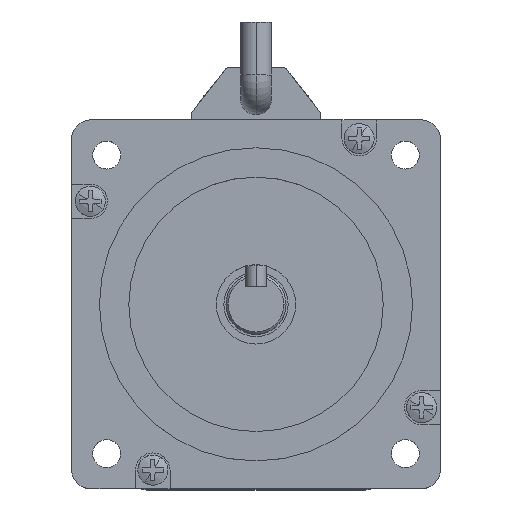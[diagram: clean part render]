
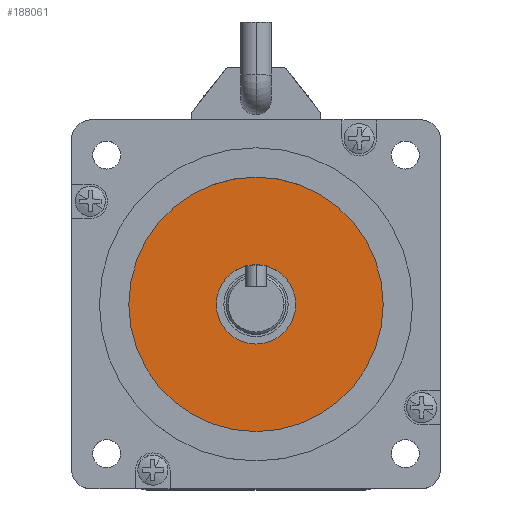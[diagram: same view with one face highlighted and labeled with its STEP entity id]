
A CAD part, top view. The second image highlights one B-rep face of the part: STEP entity #188061.
In plain terms, the highlighted planar face has unit normal (0, 0, 1).
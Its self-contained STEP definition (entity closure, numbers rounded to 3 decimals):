
#2832 = AXIS2_PLACEMENT_3D ( 'NONE', #61504, #144334, #46551 ) ;
#3902 = DIRECTION ( 'NONE',  ( 1., 0., 0. ) ) ;
#5456 = CARTESIAN_POINT ( 'NONE',  ( -15.03, 0.378, -7.5 ) ) ;
#9478 = CARTESIAN_POINT ( 'NONE',  ( -24.28, 0.378, -7.5 ) ) ;
#15511 = CARTESIAN_POINT ( 'NONE',  ( -15.03, 0.378, -7.5 ) ) ;
#21545 = CARTESIAN_POINT ( 'NONE',  ( -15.03, 0.378, -7.5 ) ) ;
#21892 = DIRECTION ( 'NONE',  ( 1., 0., 0. ) ) ;
#24166 = CIRCLE ( 'NONE', #24907, 9.25 ) ;
#24907 = AXIS2_PLACEMENT_3D ( 'NONE', #15511, #129719, #31974 ) ;
#27719 = AXIS2_PLACEMENT_3D ( 'NONE', #5456, #119654, #21892 ) ;
#31974 = DIRECTION ( 'NONE',  ( 1., 0., 0. ) ) ;
#33733 = ORIENTED_EDGE ( 'NONE', *, *, #122241, .T. ) ;
#37951 = DIRECTION ( 'NONE',  ( 1., 0., 0. ) ) ;
#46551 = DIRECTION ( 'NONE',  ( 1., 0., 0. ) ) ;
#47942 = ORIENTED_EDGE ( 'NONE', *, *, #121695, .F. ) ;
#61504 = CARTESIAN_POINT ( 'NONE',  ( -15.03, 0.378, -7.5 ) ) ;
#67626 = AXIS2_PLACEMENT_3D ( 'NONE', #21545, #135733, #37951 ) ;
#70468 = VERTEX_POINT ( 'NONE', #142217 ) ;
#75971 = ORIENTED_EDGE ( 'NONE', *, *, #133833, .F. ) ;
#85023 = AXIS2_PLACEMENT_3D ( 'NONE', #199435, #101694, #3902 ) ;
#85685 = CARTESIAN_POINT ( 'NONE',  ( -5.78, 0.378, -7.5 ) ) ;
#101694 = DIRECTION ( 'NONE',  ( 0., 0., 1. ) ) ;
#104576 = EDGE_CURVE ( 'NONE', #70468, #177240, #198763, .T. ) ;
#107731 = FACE_BOUND ( 'NONE', #149249, .T. ) ;
#119654 = DIRECTION ( 'NONE',  ( 0., 0., 1. ) ) ;
#121695 = EDGE_CURVE ( 'NONE', #164801, #158979, #24166, .T. ) ;
#122241 = EDGE_CURVE ( 'NONE', #177240, #70468, #133711, .T. ) ;
#127264 = CARTESIAN_POINT ( 'NONE',  ( 14.622, 0.378, -7.5 ) ) ;
#128447 = CIRCLE ( 'NONE', #85023, 9.25 ) ;
#129719 = DIRECTION ( 'NONE',  ( 0., 0., 1. ) ) ;
#133711 = CIRCLE ( 'NONE', #27719, 29.653 ) ;
#133833 = EDGE_CURVE ( 'NONE', #158979, #164801, #128447, .T. ) ;
#135733 = DIRECTION ( 'NONE',  ( 0., 0., 1. ) ) ;
#142217 = CARTESIAN_POINT ( 'NONE',  ( -44.683, 0.378, -7.5 ) ) ;
#144334 = DIRECTION ( 'NONE',  ( 0., 0., 1. ) ) ;
#146031 = FACE_OUTER_BOUND ( 'NONE', #171659, .T. ) ;
#149249 = EDGE_LOOP ( 'NONE', ( #47942, #75971 ) ) ;
#158979 = VERTEX_POINT ( 'NONE', #9478 ) ;
#164408 = ORIENTED_EDGE ( 'NONE', *, *, #104576, .T. ) ;
#164801 = VERTEX_POINT ( 'NONE', #85685 ) ;
#171659 = EDGE_LOOP ( 'NONE', ( #33733, #164408 ) ) ;
#177240 = VERTEX_POINT ( 'NONE', #127264 ) ;
#188061 = ADVANCED_FACE ( 'NONE', ( #107731, #146031 ), #192882, .T. ) ;
#192882 = PLANE ( 'NONE',  #2832 ) ;
#198763 = CIRCLE ( 'NONE', #67626, 29.653 ) ;
#199435 = CARTESIAN_POINT ( 'NONE',  ( -15.03, 0.378, -7.5 ) ) ;
